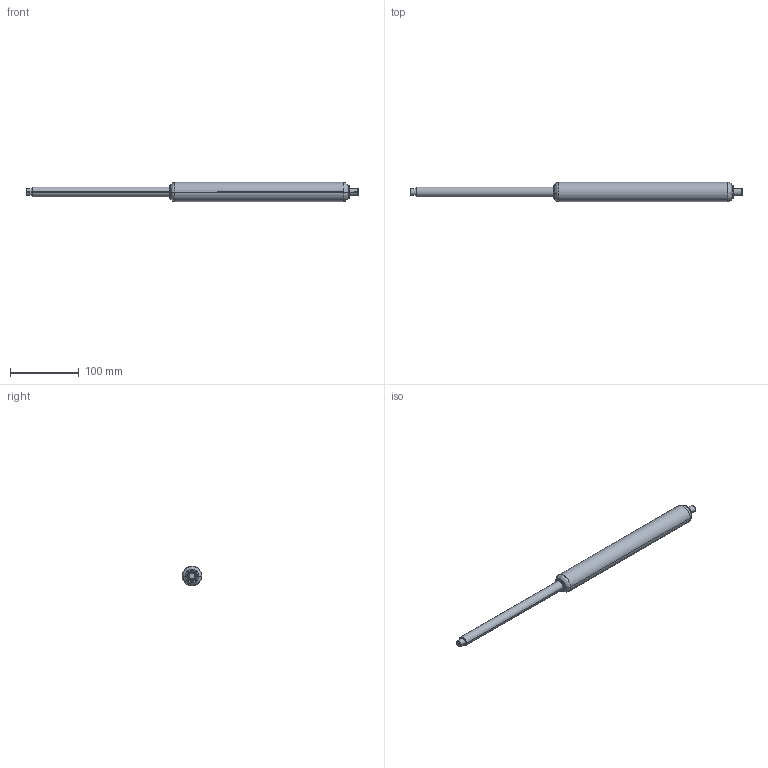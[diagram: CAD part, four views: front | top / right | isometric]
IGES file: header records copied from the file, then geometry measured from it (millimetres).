
Start section: SolidWorks IGES file using analytic representation for surfaces
Global section: file name: Z:\7-3D図面\01.図面\01.L\外形図\Ｇ／Ｓ\20170710(最新)\カタログ用\IGES\FGS-28-200-BB.IGS; native system: SolidWorks 2016; preprocessor: SolidWorks 2016; author: flgijutsu; date: 170710.171642; units: millimetre
Bounding box: 484 x 28 x 28 mm (x, y, z)
Surface area: 33495.3 mm2 (no closed solid volume)
Topology: 0 solids, 0 shells, 31 faces, 360 edges, 360 vertices
Faces by surface type: revolution 22, bspline 9
